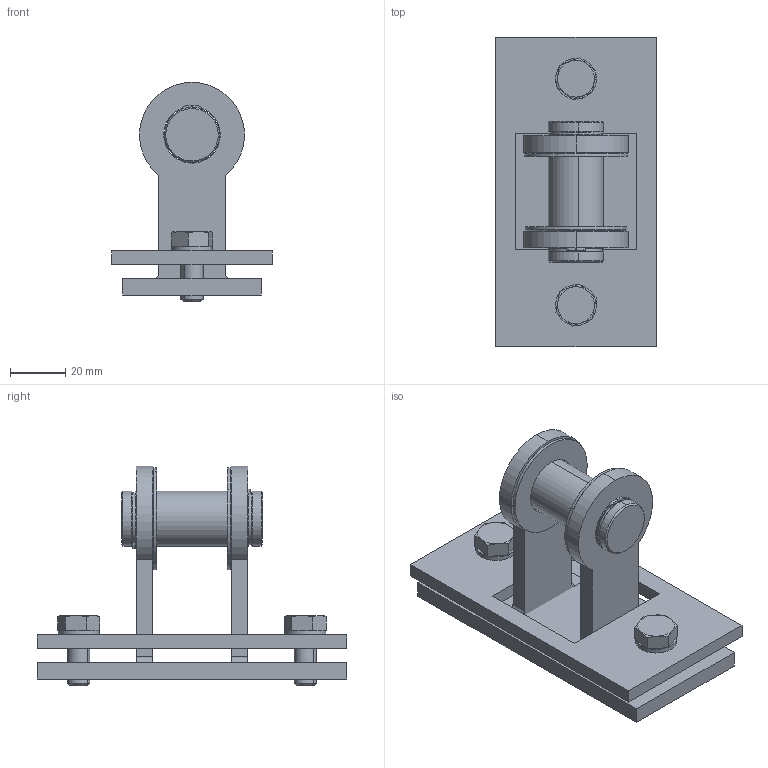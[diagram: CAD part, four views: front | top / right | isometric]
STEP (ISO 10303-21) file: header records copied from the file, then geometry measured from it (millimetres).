
FILE_DESCRIPTION (( 'STEP AP214' ), '1' );
FILE_NAME ('900.100.102.STEP', '2015-02-23T15:34:36', ( '' ), ( '' ), 'SwSTEP 2.0', 'SolidWorks 2012', '' );
FILE_SCHEMA (( 'AUTOMOTIVE_DESIGN' ));
Length unit declared in the file: millimetre
Products named in the file (9): curved spring lock washer_din_Spring washer DIN 128 - A10; circlip for shafts normal_din_Circlip DIN 471 - 15 x 1; 900.100.021; RONDELLA 20 (21-37-1.5); VITI TE UNI 5739_M8x20 UNI 5739; 900.100.005; 900.100.004-1; 900.100.102; curved spring lock washer_din_PreviewCfg
Assembly tree (11 placements, depth 2):
  900.100.102
    900.100.004-1
    900.100.005
    VITI TE UNI 5739_M8x20 UNI 5739  x2
    RONDELLA 20 (21-37-1.5)  x2
    900.100.021
    circlip for shafts normal_din_Circlip DIN 471 - 15 x 1  x2
    curved spring lock washer_din_Spring washer DIN 128 - A10
    curved spring lock washer_din_PreviewCfg
Bounding box: 58 x 112 x 79.4 mm (x, y, z)
Volume: 100344.8 mm3; surface area: 46788.1 mm2
Topology: 13 solids, 13 shells, 196 faces, 464 edges, 300 vertices
Faces by surface type: plane 82, cylinder 78, cone 24, torus 12
Entity records: 4984 total; most frequent: CARTESIAN_POINT 831, DIRECTION 796, ORIENTED_EDGE 692, EDGE_CURVE 346, AXIS2_PLACEMENT_3D 309, VERTEX_POINT 224, LINE 178, VECTOR 178
